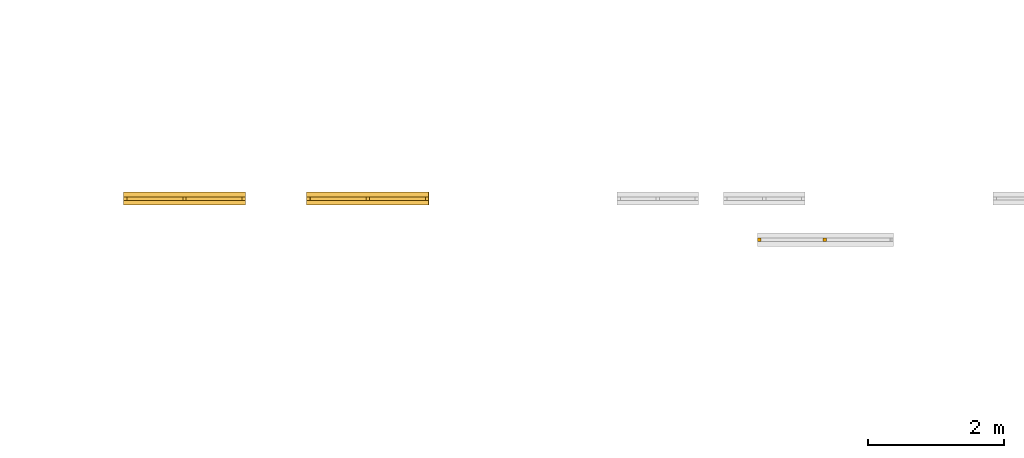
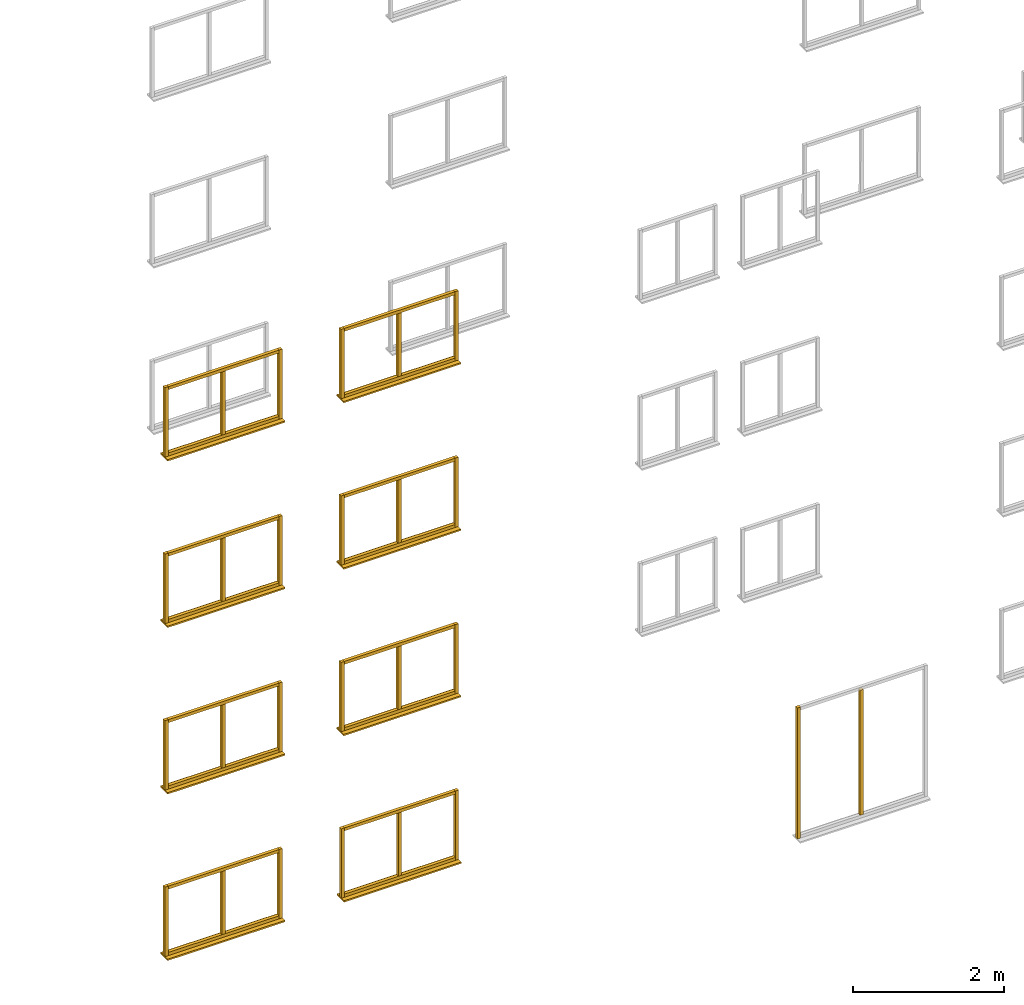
# Not in any storey, part 2 of 22: 50 windows.
"""IFC2X3 model written with IfcOpenShell, lengths in metres."""

from ifc_helpers import new_model, si_unit, frame, origin, place, context, project, faceted_brep, element, save


model = new_model("IFC2X3")

# Units and contexts
model_context = context("Model", 3, precision=1e-06, world=origin())
ifc_project = project(units=[si_unit("LENGTHUNIT", "METRE"), si_unit("PLANEANGLEUNIT", "RADIAN")], contexts=[model_context])

# Windows
placement = place(None, origin())
window_1_placement = place(placement, frame((1.374999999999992, -0.098422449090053, 3.725000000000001), z_axis=(0.0, 0.0, 1.0), x_axis=(1.0, 0.0, 0.0)))
element("IfcWindow", 1, at=window_1_placement, Name="bottomFrame", context=model_context, shape_type="Brep", body=[
    faceted_brep([(0.0, 0.05, 0.0), (1.7, 0.05, 0.0), (1.7, 0.0, 0.0), (0.0, 0.0, 0.0), (1.7, 0.0, 0.05), (1.7, 0.05, 0.05), (0.0, 0.05, 0.05), (0.0, 0.0, 0.05), (0.0, 0.05, 0.0), (0.0, 0.0, 0.0), (0.0, 0.0, 0.05), (0.0, 0.05, 0.05), (1.7, 0.05, 0.0), (0.0, 0.05, 0.0), (0.0, 0.05, 0.05), (1.7, 0.05, 0.05), (1.7, 0.0, 0.0), (1.7, 0.05, 0.0), (1.7, 0.05, 0.05), (1.7, 0.0, 0.05), (0.0, 0.0, 0.0), (1.7, 0.0, 0.0), (1.7, 0.0, 0.05), (0.0, 0.0, 0.05)], [[[0, 1, 2, 3]], [[4, 5, 6, 7]], [[8, 9, 10, 11]], [[12, 13, 14, 15]], [[16, 17, 18, 19]], [[20, 21, 22, 23]]]),
])
for number, where, z_axis, x_axis, name in (
    (2, (3.074999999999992, -0.098422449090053, 3.725000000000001), (0.0, 0.0, 1.0), (1.0, 0.0, 0.0), "rightFrame"),
    (3, (1.324999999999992, -0.098422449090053, 3.725000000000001), (0.0, 0.0, 1.0), (1.0, 0.0, 0.0), "leftFrame"),
    (4, (4.024999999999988, -0.098422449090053, 3.725000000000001), (0.0, 0.0, 1.0), (1.0, 0.0, 0.0), "leftFrame"),
):
    element("IfcWindow", number, at=place(placement, frame(where, z_axis=z_axis, x_axis=x_axis)), Name=name, context=model_context, shape_type="Brep", body=[
        faceted_brep([(0.0, 0.05, 0.0), (0.05, 0.05, 0.0), (0.05, 0.0, 0.0), (0.0, 0.0, 0.0), (0.05, 0.0, 1.125), (0.05, 0.05, 1.125), (0.0, 0.05, 1.125), (0.0, 0.0, 1.125), (0.0, 0.05, 0.0), (0.0, 0.0, 0.0), (0.0, 0.0, 1.125), (0.0, 0.05, 1.125), (0.05, 0.05, 0.0), (0.0, 0.05, 0.0), (0.0, 0.05, 1.125), (0.05, 0.05, 1.125), (0.05, 0.0, 0.0), (0.05, 0.05, 0.0), (0.05, 0.05, 1.125), (0.05, 0.0, 1.125), (0.0, 0.0, 0.0), (0.05, 0.0, 0.0), (0.05, 0.0, 1.125), (0.0, 0.0, 1.125)], [[[0, 1, 2, 3]], [[4, 5, 6, 7]], [[8, 9, 10, 11]], [[12, 13, 14, 15]], [[16, 17, 18, 19]], [[20, 21, 22, 23]]]),
    ])
window_2_placement = place(placement, frame((4.024999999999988, -0.166922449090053, 3.700000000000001), z_axis=(0.0, 0.0, 1.0), x_axis=(1.0, 0.0, 0.0)))
element("IfcWindow", 5, at=window_2_placement, Name="windowSill", context=model_context, shape_type="Brep", body=[
    faceted_brep([(0.0, 0.187, 0.0), (1.8, 0.187, 0.0), (1.8, 0.0, 0.0), (0.0, 0.0, 0.0), (1.8, 0.0, 0.025), (1.8, 0.187, 0.025), (0.0, 0.187, 0.025), (0.0, 0.0, 0.025), (0.0, 0.187, 0.0), (0.0, 0.0, 0.0), (0.0, 0.0, 0.025), (0.0, 0.187, 0.025), (1.8, 0.187, 0.0), (0.0, 0.187, 0.0), (0.0, 0.187, 0.025), (1.8, 0.187, 0.025), (1.8, 0.0, 0.0), (1.8, 0.187, 0.0), (1.8, 0.187, 0.025), (1.8, 0.0, 0.025), (0.0, 0.0, 0.0), (1.8, 0.0, 0.0), (1.8, 0.0, 0.025), (0.0, 0.0, 0.025)], [[[0, 1, 2, 3]], [[4, 5, 6, 7]], [[8, 9, 10, 11]], [[12, 13, 14, 15]], [[16, 17, 18, 19]], [[20, 21, 22, 23]]]),
])
window_3_placement = place(placement, frame((5.774999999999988, -0.098422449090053, 3.725000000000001), z_axis=(0.0, 0.0, 1.0), x_axis=(1.0, 0.0, 0.0)))
element("IfcWindow", 6, at=window_3_placement, Name="rightFrame", context=model_context, shape_type="Brep", body=[
    faceted_brep([(0.0, 0.05, 0.0), (0.05, 0.05, 0.0), (0.05, 0.0, 0.0), (0.0, 0.0, 0.0), (0.05, 0.0, 1.125), (0.05, 0.05, 1.125), (0.0, 0.05, 1.125), (0.0, 0.0, 1.125), (0.0, 0.05, 0.0), (0.0, 0.0, 0.0), (0.0, 0.0, 1.125), (0.0, 0.05, 1.125), (0.05, 0.05, 0.0), (0.0, 0.05, 0.0), (0.0, 0.05, 1.125), (0.05, 0.05, 1.125), (0.05, 0.0, 0.0), (0.05, 0.05, 0.0), (0.05, 0.05, 1.125), (0.05, 0.0, 1.125), (0.0, 0.0, 0.0), (0.05, 0.0, 0.0), (0.05, 0.0, 1.125), (0.0, 0.0, 1.125)], [[[0, 1, 2, 3]], [[4, 5, 6, 7]], [[8, 9, 10, 11]], [[12, 13, 14, 15]], [[16, 17, 18, 19]], [[20, 21, 22, 23]]]),
])
for number, where, z_axis, x_axis, name in (
    (7, (4.074999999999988, -0.098422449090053, 4.800000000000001), (0.0, 0.0, 1.0), (1.0, 0.0, 0.0), "topFrame"),
    (8, (4.074999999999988, -0.098422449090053, 3.725000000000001), (0.0, 0.0, 1.0), (1.0, 0.0, 0.0), "bottomFrame"),
    (9, (4.080000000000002, -0.098422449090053, 1.025), (0.0, 0.0, 1.0), (1.0, 0.0, 0.0), "bottomFrame"),
):
    element("IfcWindow", number, at=place(placement, frame(where, z_axis=z_axis, x_axis=x_axis)), Name=name, context=model_context, shape_type="Brep", body=[
        faceted_brep([(0.0, 0.05, 0.0), (1.7, 0.05, 0.0), (1.7, 0.0, 0.0), (0.0, 0.0, 0.0), (1.7, 0.0, 0.05), (1.7, 0.05, 0.05), (0.0, 0.05, 0.05), (0.0, 0.0, 0.05), (0.0, 0.05, 0.0), (0.0, 0.0, 0.0), (0.0, 0.0, 0.05), (0.0, 0.05, 0.05), (1.7, 0.05, 0.0), (0.0, 0.05, 0.0), (0.0, 0.05, 0.05), (1.7, 0.05, 0.05), (1.7, 0.0, 0.0), (1.7, 0.05, 0.0), (1.7, 0.05, 0.05), (1.7, 0.0, 0.05), (0.0, 0.0, 0.0), (1.7, 0.0, 0.0), (1.7, 0.0, 0.05), (0.0, 0.0, 0.05)], [[[0, 1, 2, 3]], [[4, 5, 6, 7]], [[8, 9, 10, 11]], [[12, 13, 14, 15]], [[16, 17, 18, 19]], [[20, 21, 22, 23]]]),
    ])
window_4_placement = place(placement, frame((4.030000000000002, -0.166922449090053, 1.0), z_axis=(0.0, 0.0, 1.0), x_axis=(1.0, 0.0, 0.0)))
element("IfcWindow", 10, at=window_4_placement, Name="windowSill", context=model_context, shape_type="Brep", body=[
    faceted_brep([(0.0, 0.187, 0.0), (1.8, 0.187, 0.0), (1.8, 0.0, 0.0), (0.0, 0.0, 0.0), (1.8, 0.0, 0.025), (1.8, 0.187, 0.025), (0.0, 0.187, 0.025), (0.0, 0.0, 0.025), (0.0, 0.187, 0.0), (0.0, 0.0, 0.0), (0.0, 0.0, 0.025), (0.0, 0.187, 0.025), (1.8, 0.187, 0.0), (0.0, 0.187, 0.0), (0.0, 0.187, 0.025), (1.8, 0.187, 0.025), (1.8, 0.0, 0.0), (1.8, 0.187, 0.0), (1.8, 0.187, 0.025), (1.8, 0.0, 0.025), (0.0, 0.0, 0.0), (1.8, 0.0, 0.0), (1.8, 0.0, 0.025), (0.0, 0.0, 0.025)], [[[0, 1, 2, 3]], [[4, 5, 6, 7]], [[8, 9, 10, 11]], [[12, 13, 14, 15]], [[16, 17, 18, 19]], [[20, 21, 22, 23]]]),
])
window_5_placement = place(placement, frame((4.080000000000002, -0.098422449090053, 2.100000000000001), z_axis=(0.0, 0.0, 1.0), x_axis=(1.0, 0.0, 0.0)))
element("IfcWindow", 11, at=window_5_placement, Name="topFrame", context=model_context, shape_type="Brep", body=[
    faceted_brep([(0.0, 0.05, 0.0), (1.7, 0.05, 0.0), (1.7, 0.0, 0.0), (0.0, 0.0, 0.0), (1.7, 0.0, 0.05), (1.7, 0.05, 0.05), (0.0, 0.05, 0.05), (0.0, 0.0, 0.05), (0.0, 0.05, 0.0), (0.0, 0.0, 0.0), (0.0, 0.0, 0.05), (0.0, 0.05, 0.05), (1.7, 0.05, 0.0), (0.0, 0.05, 0.0), (0.0, 0.05, 0.05), (1.7, 0.05, 0.05), (1.7, 0.0, 0.0), (1.7, 0.05, 0.0), (1.7, 0.05, 0.05), (1.7, 0.0, 0.05), (0.0, 0.0, 0.0), (1.7, 0.0, 0.0), (1.7, 0.0, 0.05), (0.0, 0.0, 0.05)], [[[0, 1, 2, 3]], [[4, 5, 6, 7]], [[8, 9, 10, 11]], [[12, 13, 14, 15]], [[16, 17, 18, 19]], [[20, 21, 22, 23]]]),
])
for number, where, z_axis, x_axis, name in (
    (12, (4.030000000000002, -0.098422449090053, 1.025), (0.0, 0.0, 1.0), (1.0, 0.0, 0.0), "leftFrame"),
    (13, (5.780000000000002, -0.098422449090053, 1.025), (0.0, 0.0, 1.0), (1.0, 0.0, 0.0), "rightFrame"),
):
    element("IfcWindow", number, at=place(placement, frame(where, z_axis=z_axis, x_axis=x_axis)), Name=name, context=model_context, shape_type="Brep", body=[
        faceted_brep([(0.0, 0.05, 0.0), (0.05, 0.05, 0.0), (0.05, 0.0, 0.0), (0.0, 0.0, 0.0), (0.05, 0.0, 1.125), (0.05, 0.05, 1.125), (0.0, 0.05, 1.125), (0.0, 0.0, 1.125), (0.0, 0.05, 0.0), (0.0, 0.0, 0.0), (0.0, 0.0, 1.125), (0.0, 0.05, 1.125), (0.05, 0.05, 0.0), (0.0, 0.05, 0.0), (0.0, 0.05, 1.125), (0.05, 0.05, 1.125), (0.05, 0.0, 0.0), (0.05, 0.05, 0.0), (0.05, 0.05, 1.125), (0.05, 0.0, 1.125), (0.0, 0.0, 0.0), (0.05, 0.0, 0.0), (0.05, 0.0, 1.125), (0.0, 0.0, 1.125)], [[[0, 1, 2, 3]], [[4, 5, 6, 7]], [[8, 9, 10, 11]], [[12, 13, 14, 15]], [[16, 17, 18, 19]], [[20, 21, 22, 23]]]),
    ])
window_6_placement = place(placement, frame((4.905000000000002, -0.098422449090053, 1.075), z_axis=(0.0, 0.0, 1.0), x_axis=(1.0, 0.0, 0.0)))
element("IfcWindow", 14, at=window_6_placement, Name="verticalBar", context=model_context, shape_type="Brep", body=[
    faceted_brep([(0.0, 0.05, 0.0), (0.05, 0.05, 0.0), (0.05, 0.0, 0.0), (0.0, 0.0, 0.0), (0.05, 0.0, 1.025), (0.05, 0.05, 1.025), (0.0, 0.05, 1.025), (0.0, 0.0, 1.025), (0.0, 0.05, 0.0), (0.0, 0.0, 0.0), (0.0, 0.0, 1.025), (0.0, 0.05, 1.025), (0.05, 0.05, 0.0), (0.0, 0.05, 0.0), (0.0, 0.05, 1.025), (0.05, 0.05, 1.025), (0.05, 0.0, 0.0), (0.05, 0.05, 0.0), (0.05, 0.05, 1.025), (0.05, 0.0, 1.025), (0.0, 0.0, 0.0), (0.05, 0.0, 0.0), (0.05, 0.0, 1.025), (0.0, 0.0, 1.025)], [[[0, 1, 2, 3]], [[4, 5, 6, 7]], [[8, 9, 10, 11]], [[12, 13, 14, 15]], [[16, 17, 18, 19]], [[20, 21, 22, 23]]]),
])
for number, where, z_axis, x_axis, name in (
    (15, (1.375000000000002, -0.098422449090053, 1.025), (0.0, 0.0, 1.0), (1.0, 0.0, 0.0), "bottomFrame"),
    (16, (1.375000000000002, -0.098422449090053, 2.100000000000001), (0.0, 0.0, 1.0), (1.0, 0.0, 0.0), "topFrame"),
):
    element("IfcWindow", number, at=place(placement, frame(where, z_axis=z_axis, x_axis=x_axis)), Name=name, context=model_context, shape_type="Brep", body=[
        faceted_brep([(0.0, 0.05, 0.0), (1.7, 0.05, 0.0), (1.7, 0.0, 0.0), (0.0, 0.0, 0.0), (1.7, 0.0, 0.05), (1.7, 0.05, 0.05), (0.0, 0.05, 0.05), (0.0, 0.0, 0.05), (0.0, 0.05, 0.0), (0.0, 0.0, 0.0), (0.0, 0.0, 0.05), (0.0, 0.05, 0.05), (1.7, 0.05, 0.0), (0.0, 0.05, 0.0), (0.0, 0.05, 0.05), (1.7, 0.05, 0.05), (1.7, 0.0, 0.0), (1.7, 0.05, 0.0), (1.7, 0.05, 0.05), (1.7, 0.0, 0.05), (0.0, 0.0, 0.0), (1.7, 0.0, 0.0), (1.7, 0.0, 0.05), (0.0, 0.0, 0.05)], [[[0, 1, 2, 3]], [[4, 5, 6, 7]], [[8, 9, 10, 11]], [[12, 13, 14, 15]], [[16, 17, 18, 19]], [[20, 21, 22, 23]]]),
    ])
window_7_placement = place(placement, frame((2.200000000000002, -0.098422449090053, 1.075), z_axis=(0.0, 0.0, 1.0), x_axis=(1.0, 0.0, 0.0)))
element("IfcWindow", 17, at=window_7_placement, Name="verticalBar", context=model_context, shape_type="Brep", body=[
    faceted_brep([(0.0, 0.05, 0.0), (0.05, 0.05, 0.0), (0.05, 0.0, 0.0), (0.0, 0.0, 0.0), (0.05, 0.0, 1.025), (0.05, 0.05, 1.025), (0.0, 0.05, 1.025), (0.0, 0.0, 1.025), (0.0, 0.05, 0.0), (0.0, 0.0, 0.0), (0.0, 0.0, 1.025), (0.0, 0.05, 1.025), (0.05, 0.05, 0.0), (0.0, 0.05, 0.0), (0.0, 0.05, 1.025), (0.05, 0.05, 1.025), (0.05, 0.0, 0.0), (0.05, 0.05, 0.0), (0.05, 0.05, 1.025), (0.05, 0.0, 1.025), (0.0, 0.0, 0.0), (0.05, 0.0, 0.0), (0.05, 0.0, 1.025), (0.0, 0.0, 1.025)], [[[0, 1, 2, 3]], [[4, 5, 6, 7]], [[8, 9, 10, 11]], [[12, 13, 14, 15]], [[16, 17, 18, 19]], [[20, 21, 22, 23]]]),
])
for number, where, z_axis, x_axis, name in (
    (18, (1.325000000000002, -0.098422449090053, 1.025), (0.0, 0.0, 1.0), (1.0, 0.0, 0.0), "leftFrame"),
    (19, (3.075000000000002, -0.098422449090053, 1.025), (0.0, 0.0, 1.0), (1.0, 0.0, 0.0), "rightFrame"),
):
    element("IfcWindow", number, at=place(placement, frame(where, z_axis=z_axis, x_axis=x_axis)), Name=name, context=model_context, shape_type="Brep", body=[
        faceted_brep([(0.0, 0.05, 0.0), (0.05, 0.05, 0.0), (0.05, 0.0, 0.0), (0.0, 0.0, 0.0), (0.05, 0.0, 1.125), (0.05, 0.05, 1.125), (0.0, 0.05, 1.125), (0.0, 0.0, 1.125), (0.0, 0.05, 0.0), (0.0, 0.0, 0.0), (0.0, 0.0, 1.125), (0.0, 0.05, 1.125), (0.05, 0.05, 0.0), (0.0, 0.05, 0.0), (0.0, 0.05, 1.125), (0.05, 0.05, 1.125), (0.05, 0.0, 0.0), (0.05, 0.05, 0.0), (0.05, 0.05, 1.125), (0.05, 0.0, 1.125), (0.0, 0.0, 0.0), (0.05, 0.0, 0.0), (0.05, 0.0, 1.125), (0.0, 0.0, 1.125)], [[[0, 1, 2, 3]], [[4, 5, 6, 7]], [[8, 9, 10, 11]], [[12, 13, 14, 15]], [[16, 17, 18, 19]], [[20, 21, 22, 23]]]),
    ])
window_8_placement = place(placement, frame((1.325000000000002, -0.166922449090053, 1.0), z_axis=(0.0, 0.0, 1.0), x_axis=(1.0, 0.0, 0.0)))
element("IfcWindow", 20, at=window_8_placement, Name="windowSill", context=model_context, shape_type="Brep", body=[
    faceted_brep([(0.0, 0.187, 0.0), (1.8, 0.187, 0.0), (1.8, 0.0, 0.0), (0.0, 0.0, 0.0), (1.8, 0.0, 0.025), (1.8, 0.187, 0.025), (0.0, 0.187, 0.025), (0.0, 0.0, 0.025), (0.0, 0.187, 0.0), (0.0, 0.0, 0.0), (0.0, 0.0, 0.025), (0.0, 0.187, 0.025), (1.8, 0.187, 0.0), (0.0, 0.187, 0.0), (0.0, 0.187, 0.025), (1.8, 0.187, 0.025), (1.8, 0.0, 0.0), (1.8, 0.187, 0.0), (1.8, 0.187, 0.025), (1.8, 0.0, 0.025), (0.0, 0.0, 0.0), (1.8, 0.0, 0.0), (1.8, 0.0, 0.025), (0.0, 0.0, 0.025)], [[[0, 1, 2, 3]], [[4, 5, 6, 7]], [[8, 9, 10, 11]], [[12, 13, 14, 15]], [[16, 17, 18, 19]], [[20, 21, 22, 23]]]),
])
window_9_placement = place(placement, frame((11.637499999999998, -0.70492223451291, 0.075), z_axis=(0.0, 0.0, 1.0), x_axis=(1.0, 0.0, 0.0)))
element("IfcWindow", 21, at=window_9_placement, Name="verticalLeftBar", context=model_context, shape_type="Brep", body=[
    faceted_brep([(0.0, 0.05, 0.0), (0.05, 0.05, 0.0), (0.05, 0.0, 0.0), (0.0, 0.0, 0.0), (0.05, 0.0, 2.025), (0.05, 0.05, 2.025), (0.0, 0.05, 2.025), (0.0, 0.0, 2.025), (0.0, 0.05, 0.0), (0.0, 0.0, 0.0), (0.0, 0.0, 2.025), (0.0, 0.05, 2.025), (0.05, 0.05, 0.0), (0.0, 0.05, 0.0), (0.0, 0.05, 2.025), (0.05, 0.05, 2.025), (0.05, 0.0, 0.0), (0.05, 0.05, 0.0), (0.05, 0.05, 2.025), (0.05, 0.0, 2.025), (0.0, 0.0, 0.0), (0.05, 0.0, 0.0), (0.05, 0.0, 2.025), (0.0, 0.0, 2.025)], [[[0, 1, 2, 3]], [[4, 5, 6, 7]], [[8, 9, 10, 11]], [[12, 13, 14, 15]], [[16, 17, 18, 19]], [[20, 21, 22, 23]]]),
])
window_10_placement = place(placement, frame((10.674999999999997, -0.70492223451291, 0.025), z_axis=(0.0, 0.0, 1.0), x_axis=(1.0, 0.0, 0.0)))
element("IfcWindow", 22, at=window_10_placement, Name="leftFrame", context=model_context, shape_type="Brep", body=[
    faceted_brep([(0.0, 0.05, 0.0), (0.05, 0.05, 0.0), (0.05, 0.0, 0.0), (0.0, 0.0, 0.0), (0.05, 0.0, 2.125), (0.05, 0.05, 2.125), (0.0, 0.05, 2.125), (0.0, 0.0, 2.125), (0.0, 0.05, 0.0), (0.0, 0.0, 0.0), (0.0, 0.0, 2.125), (0.0, 0.05, 2.125), (0.05, 0.05, 0.0), (0.0, 0.05, 0.0), (0.0, 0.05, 2.125), (0.05, 0.05, 2.125), (0.05, 0.0, 0.0), (0.05, 0.05, 0.0), (0.05, 0.05, 2.125), (0.05, 0.0, 2.125), (0.0, 0.0, 0.0), (0.05, 0.0, 0.0), (0.05, 0.0, 2.125), (0.0, 0.0, 2.125)], [[[0, 1, 2, 3]], [[4, 5, 6, 7]], [[8, 9, 10, 11]], [[12, 13, 14, 15]], [[16, 17, 18, 19]], [[20, 21, 22, 23]]]),
])
window_11_placement = place(placement, frame((1.324999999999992, -0.166922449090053, 3.700000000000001), z_axis=(0.0, 0.0, 1.0), x_axis=(1.0, 0.0, 0.0)))
element("IfcWindow", 23, at=window_11_placement, Name="windowSill", context=model_context, shape_type="Brep", body=[
    faceted_brep([(0.0, 0.187, 0.0), (1.8, 0.187, 0.0), (1.8, 0.0, 0.0), (0.0, 0.0, 0.0), (1.8, 0.0, 0.025), (1.8, 0.187, 0.025), (0.0, 0.187, 0.025), (0.0, 0.0, 0.025), (0.0, 0.187, 0.0), (0.0, 0.0, 0.0), (0.0, 0.0, 0.025), (0.0, 0.187, 0.025), (1.8, 0.187, 0.0), (0.0, 0.187, 0.0), (0.0, 0.187, 0.025), (1.8, 0.187, 0.025), (1.8, 0.0, 0.0), (1.8, 0.187, 0.0), (1.8, 0.187, 0.025), (1.8, 0.0, 0.025), (0.0, 0.0, 0.0), (1.8, 0.0, 0.0), (1.8, 0.0, 0.025), (0.0, 0.0, 0.025)], [[[0, 1, 2, 3]], [[4, 5, 6, 7]], [[8, 9, 10, 11]], [[12, 13, 14, 15]], [[16, 17, 18, 19]], [[20, 21, 22, 23]]]),
])
window_12_placement = place(placement, frame((1.374999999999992, -0.098422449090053, 4.800000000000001), z_axis=(0.0, 0.0, 1.0), x_axis=(1.0, 0.0, 0.0)))
element("IfcWindow", 24, at=window_12_placement, Name="topFrame", context=model_context, shape_type="Brep", body=[
    faceted_brep([(0.0, 0.05, 0.0), (1.7, 0.05, 0.0), (1.7, 0.0, 0.0), (0.0, 0.0, 0.0), (1.7, 0.0, 0.05), (1.7, 0.05, 0.05), (0.0, 0.05, 0.05), (0.0, 0.0, 0.05), (0.0, 0.05, 0.0), (0.0, 0.0, 0.0), (0.0, 0.0, 0.05), (0.0, 0.05, 0.05), (1.7, 0.05, 0.0), (0.0, 0.05, 0.0), (0.0, 0.05, 0.05), (1.7, 0.05, 0.05), (1.7, 0.0, 0.0), (1.7, 0.05, 0.0), (1.7, 0.05, 0.05), (1.7, 0.0, 0.05), (0.0, 0.0, 0.0), (1.7, 0.0, 0.0), (1.7, 0.0, 0.05), (0.0, 0.0, 0.05)], [[[0, 1, 2, 3]], [[4, 5, 6, 7]], [[8, 9, 10, 11]], [[12, 13, 14, 15]], [[16, 17, 18, 19]], [[20, 21, 22, 23]]]),
])
window_13_placement = place(placement, frame((2.199999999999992, -0.098422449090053, 3.775000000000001), z_axis=(0.0, 0.0, 1.0), x_axis=(1.0, 0.0, 0.0)))
element("IfcWindow", 25, at=window_13_placement, Name="verticalBar", context=model_context, shape_type="Brep", body=[
    faceted_brep([(0.0, 0.05, 0.0), (0.05, 0.05, 0.0), (0.05, 0.0, 0.0), (0.0, 0.0, 0.0), (0.05, 0.0, 1.025), (0.05, 0.05, 1.025), (0.0, 0.05, 1.025), (0.0, 0.0, 1.025), (0.0, 0.05, 0.0), (0.0, 0.0, 0.0), (0.0, 0.0, 1.025), (0.0, 0.05, 1.025), (0.05, 0.05, 0.0), (0.0, 0.05, 0.0), (0.0, 0.05, 1.025), (0.05, 0.05, 1.025), (0.05, 0.0, 0.0), (0.05, 0.05, 0.0), (0.05, 0.05, 1.025), (0.05, 0.0, 1.025), (0.0, 0.0, 0.0), (0.05, 0.0, 0.0), (0.05, 0.0, 1.025), (0.0, 0.0, 1.025)], [[[0, 1, 2, 3]], [[4, 5, 6, 7]], [[8, 9, 10, 11]], [[12, 13, 14, 15]], [[16, 17, 18, 19]], [[20, 21, 22, 23]]]),
])
for number, where, z_axis, x_axis, name in (
    (26, (4.074999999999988, -0.098422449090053, 7.500000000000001), (0.0, 0.0, 1.0), (1.0, 0.0, 0.0), "topFrame"),
    (27, (4.074999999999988, -0.098422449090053, 6.425000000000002), (0.0, 0.0, 1.0), (1.0, 0.0, 0.0), "bottomFrame"),
):
    element("IfcWindow", number, at=place(placement, frame(where, z_axis=z_axis, x_axis=x_axis)), Name=name, context=model_context, shape_type="Brep", body=[
        faceted_brep([(0.0, 0.05, 0.0), (1.7, 0.05, 0.0), (1.7, 0.0, 0.0), (0.0, 0.0, 0.0), (1.7, 0.0, 0.05), (1.7, 0.05, 0.05), (0.0, 0.05, 0.05), (0.0, 0.0, 0.05), (0.0, 0.05, 0.0), (0.0, 0.0, 0.0), (0.0, 0.0, 0.05), (0.0, 0.05, 0.05), (1.7, 0.05, 0.0), (0.0, 0.05, 0.0), (0.0, 0.05, 0.05), (1.7, 0.05, 0.05), (1.7, 0.0, 0.0), (1.7, 0.05, 0.0), (1.7, 0.05, 0.05), (1.7, 0.0, 0.05), (0.0, 0.0, 0.0), (1.7, 0.0, 0.0), (1.7, 0.0, 0.05), (0.0, 0.0, 0.05)], [[[0, 1, 2, 3]], [[4, 5, 6, 7]], [[8, 9, 10, 11]], [[12, 13, 14, 15]], [[16, 17, 18, 19]], [[20, 21, 22, 23]]]),
    ])
window_14_placement = place(placement, frame((4.899999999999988, -0.098422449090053, 6.475000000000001), z_axis=(0.0, 0.0, 1.0), x_axis=(1.0, 0.0, 0.0)))
element("IfcWindow", 28, at=window_14_placement, Name="verticalBar", context=model_context, shape_type="Brep", body=[
    faceted_brep([(0.0, 0.05, 0.0), (0.05, 0.05, 0.0), (0.05, 0.0, 0.0), (0.0, 0.0, 0.0), (0.05, 0.0, 1.025), (0.05, 0.05, 1.025), (0.0, 0.05, 1.025), (0.0, 0.0, 1.025), (0.0, 0.05, 0.0), (0.0, 0.0, 0.0), (0.0, 0.0, 1.025), (0.0, 0.05, 1.025), (0.05, 0.05, 0.0), (0.0, 0.05, 0.0), (0.0, 0.05, 1.025), (0.05, 0.05, 1.025), (0.05, 0.0, 0.0), (0.05, 0.05, 0.0), (0.05, 0.05, 1.025), (0.05, 0.0, 1.025), (0.0, 0.0, 0.0), (0.05, 0.0, 0.0), (0.05, 0.0, 1.025), (0.0, 0.0, 1.025)], [[[0, 1, 2, 3]], [[4, 5, 6, 7]], [[8, 9, 10, 11]], [[12, 13, 14, 15]], [[16, 17, 18, 19]], [[20, 21, 22, 23]]]),
])
window_15_placement = place(placement, frame((5.774999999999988, -0.098422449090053, 6.425000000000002), z_axis=(0.0, 0.0, 1.0), x_axis=(1.0, 0.0, 0.0)))
element("IfcWindow", 29, at=window_15_placement, Name="rightFrame", context=model_context, shape_type="Brep", body=[
    faceted_brep([(0.0, 0.05, 0.0), (0.05, 0.05, 0.0), (0.05, 0.0, 0.0), (0.0, 0.0, 0.0), (0.05, 0.0, 1.125), (0.05, 0.05, 1.125), (0.0, 0.05, 1.125), (0.0, 0.0, 1.125), (0.0, 0.05, 0.0), (0.0, 0.0, 0.0), (0.0, 0.0, 1.125), (0.0, 0.05, 1.125), (0.05, 0.05, 0.0), (0.0, 0.05, 0.0), (0.0, 0.05, 1.125), (0.05, 0.05, 1.125), (0.05, 0.0, 0.0), (0.05, 0.05, 0.0), (0.05, 0.05, 1.125), (0.05, 0.0, 1.125), (0.0, 0.0, 0.0), (0.05, 0.0, 0.0), (0.05, 0.0, 1.125), (0.0, 0.0, 1.125)], [[[0, 1, 2, 3]], [[4, 5, 6, 7]], [[8, 9, 10, 11]], [[12, 13, 14, 15]], [[16, 17, 18, 19]], [[20, 21, 22, 23]]]),
])
window_16_placement = place(placement, frame((4.024999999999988, -0.166922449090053, 6.400000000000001), z_axis=(0.0, 0.0, 1.0), x_axis=(1.0, 0.0, 0.0)))
element("IfcWindow", 30, at=window_16_placement, Name="windowSill", context=model_context, shape_type="Brep", body=[
    faceted_brep([(0.0, 0.187, 0.0), (1.8, 0.187, 0.0), (1.8, 0.0, 0.0), (0.0, 0.0, 0.0), (1.8, 0.0, 0.025), (1.8, 0.187, 0.025), (0.0, 0.187, 0.025), (0.0, 0.0, 0.025), (0.0, 0.187, 0.0), (0.0, 0.0, 0.0), (0.0, 0.0, 0.025), (0.0, 0.187, 0.025), (1.8, 0.187, 0.0), (0.0, 0.187, 0.0), (0.0, 0.187, 0.025), (1.8, 0.187, 0.025), (1.8, 0.0, 0.0), (1.8, 0.187, 0.0), (1.8, 0.187, 0.025), (1.8, 0.0, 0.025), (0.0, 0.0, 0.0), (1.8, 0.0, 0.0), (1.8, 0.0, 0.025), (0.0, 0.0, 0.025)], [[[0, 1, 2, 3]], [[4, 5, 6, 7]], [[8, 9, 10, 11]], [[12, 13, 14, 15]], [[16, 17, 18, 19]], [[20, 21, 22, 23]]]),
])
for number, where, z_axis, x_axis, name in (
    (31, (4.024999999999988, -0.098422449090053, 6.425000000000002), (0.0, 0.0, 1.0), (1.0, 0.0, 0.0), "leftFrame"),
    (32, (1.324999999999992, -0.098422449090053, 6.425000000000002), (0.0, 0.0, 1.0), (1.0, 0.0, 0.0), "leftFrame"),
):
    element("IfcWindow", number, at=place(placement, frame(where, z_axis=z_axis, x_axis=x_axis)), Name=name, context=model_context, shape_type="Brep", body=[
        faceted_brep([(0.0, 0.05, 0.0), (0.05, 0.05, 0.0), (0.05, 0.0, 0.0), (0.0, 0.0, 0.0), (0.05, 0.0, 1.125), (0.05, 0.05, 1.125), (0.0, 0.05, 1.125), (0.0, 0.0, 1.125), (0.0, 0.05, 0.0), (0.0, 0.0, 0.0), (0.0, 0.0, 1.125), (0.0, 0.05, 1.125), (0.05, 0.05, 0.0), (0.0, 0.05, 0.0), (0.0, 0.05, 1.125), (0.05, 0.05, 1.125), (0.05, 0.0, 0.0), (0.05, 0.05, 0.0), (0.05, 0.05, 1.125), (0.05, 0.0, 1.125), (0.0, 0.0, 0.0), (0.05, 0.0, 0.0), (0.05, 0.0, 1.125), (0.0, 0.0, 1.125)], [[[0, 1, 2, 3]], [[4, 5, 6, 7]], [[8, 9, 10, 11]], [[12, 13, 14, 15]], [[16, 17, 18, 19]], [[20, 21, 22, 23]]]),
    ])
window_17_placement = place(placement, frame((1.374999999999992, -0.098422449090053, 6.425000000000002), z_axis=(0.0, 0.0, 1.0), x_axis=(1.0, 0.0, 0.0)))
element("IfcWindow", 33, at=window_17_placement, Name="bottomFrame", context=model_context, shape_type="Brep", body=[
    faceted_brep([(0.0, 0.05, 0.0), (1.7, 0.05, 0.0), (1.7, 0.0, 0.0), (0.0, 0.0, 0.0), (1.7, 0.0, 0.05), (1.7, 0.05, 0.05), (0.0, 0.05, 0.05), (0.0, 0.0, 0.05), (0.0, 0.05, 0.0), (0.0, 0.0, 0.0), (0.0, 0.0, 0.05), (0.0, 0.05, 0.05), (1.7, 0.05, 0.0), (0.0, 0.05, 0.0), (0.0, 0.05, 0.05), (1.7, 0.05, 0.05), (1.7, 0.0, 0.0), (1.7, 0.05, 0.0), (1.7, 0.05, 0.05), (1.7, 0.0, 0.05), (0.0, 0.0, 0.0), (1.7, 0.0, 0.0), (1.7, 0.0, 0.05), (0.0, 0.0, 0.05)], [[[0, 1, 2, 3]], [[4, 5, 6, 7]], [[8, 9, 10, 11]], [[12, 13, 14, 15]], [[16, 17, 18, 19]], [[20, 21, 22, 23]]]),
])
window_18_placement = place(placement, frame((3.074999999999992, -0.098422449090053, 6.425000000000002), z_axis=(0.0, 0.0, 1.0), x_axis=(1.0, 0.0, 0.0)))
element("IfcWindow", 34, at=window_18_placement, Name="rightFrame", context=model_context, shape_type="Brep", body=[
    faceted_brep([(0.0, 0.05, 0.0), (0.05, 0.05, 0.0), (0.05, 0.0, 0.0), (0.0, 0.0, 0.0), (0.05, 0.0, 1.125), (0.05, 0.05, 1.125), (0.0, 0.05, 1.125), (0.0, 0.0, 1.125), (0.0, 0.05, 0.0), (0.0, 0.0, 0.0), (0.0, 0.0, 1.125), (0.0, 0.05, 1.125), (0.05, 0.05, 0.0), (0.0, 0.05, 0.0), (0.0, 0.05, 1.125), (0.05, 0.05, 1.125), (0.05, 0.0, 0.0), (0.05, 0.05, 0.0), (0.05, 0.05, 1.125), (0.05, 0.0, 1.125), (0.0, 0.0, 0.0), (0.05, 0.0, 0.0), (0.05, 0.0, 1.125), (0.0, 0.0, 1.125)], [[[0, 1, 2, 3]], [[4, 5, 6, 7]], [[8, 9, 10, 11]], [[12, 13, 14, 15]], [[16, 17, 18, 19]], [[20, 21, 22, 23]]]),
])
window_19_placement = place(placement, frame((2.199999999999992, -0.098422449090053, 6.475000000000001), z_axis=(0.0, 0.0, 1.0), x_axis=(1.0, 0.0, 0.0)))
element("IfcWindow", 35, at=window_19_placement, Name="verticalBar", context=model_context, shape_type="Brep", body=[
    faceted_brep([(0.0, 0.05, 0.0), (0.05, 0.05, 0.0), (0.05, 0.0, 0.0), (0.0, 0.0, 0.0), (0.05, 0.0, 1.025), (0.05, 0.05, 1.025), (0.0, 0.05, 1.025), (0.0, 0.0, 1.025), (0.0, 0.05, 0.0), (0.0, 0.0, 0.0), (0.0, 0.0, 1.025), (0.0, 0.05, 1.025), (0.05, 0.05, 0.0), (0.0, 0.05, 0.0), (0.0, 0.05, 1.025), (0.05, 0.05, 1.025), (0.05, 0.0, 0.0), (0.05, 0.05, 0.0), (0.05, 0.05, 1.025), (0.05, 0.0, 1.025), (0.0, 0.0, 0.0), (0.05, 0.0, 0.0), (0.05, 0.0, 1.025), (0.0, 0.0, 1.025)], [[[0, 1, 2, 3]], [[4, 5, 6, 7]], [[8, 9, 10, 11]], [[12, 13, 14, 15]], [[16, 17, 18, 19]], [[20, 21, 22, 23]]]),
])
window_20_placement = place(placement, frame((1.374999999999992, -0.098422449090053, 7.500000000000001), z_axis=(0.0, 0.0, 1.0), x_axis=(1.0, 0.0, 0.0)))
element("IfcWindow", 36, at=window_20_placement, Name="topFrame", context=model_context, shape_type="Brep", body=[
    faceted_brep([(0.0, 0.05, 0.0), (1.7, 0.05, 0.0), (1.7, 0.0, 0.0), (0.0, 0.0, 0.0), (1.7, 0.0, 0.05), (1.7, 0.05, 0.05), (0.0, 0.05, 0.05), (0.0, 0.0, 0.05), (0.0, 0.05, 0.0), (0.0, 0.0, 0.0), (0.0, 0.0, 0.05), (0.0, 0.05, 0.05), (1.7, 0.05, 0.0), (0.0, 0.05, 0.0), (0.0, 0.05, 0.05), (1.7, 0.05, 0.05), (1.7, 0.0, 0.0), (1.7, 0.05, 0.0), (1.7, 0.05, 0.05), (1.7, 0.0, 0.05), (0.0, 0.0, 0.0), (1.7, 0.0, 0.0), (1.7, 0.0, 0.05), (0.0, 0.0, 0.05)], [[[0, 1, 2, 3]], [[4, 5, 6, 7]], [[8, 9, 10, 11]], [[12, 13, 14, 15]], [[16, 17, 18, 19]], [[20, 21, 22, 23]]]),
])
for number, where, z_axis, x_axis, name in (
    (37, (1.324999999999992, -0.166922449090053, 6.400000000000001), (0.0, 0.0, 1.0), (1.0, 0.0, 0.0), "windowSill"),
    (38, (4.024999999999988, -0.166922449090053, 9.100000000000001), (0.0, 0.0, 1.0), (1.0, 0.0, 0.0), "windowSill"),
):
    element("IfcWindow", number, at=place(placement, frame(where, z_axis=z_axis, x_axis=x_axis)), Name=name, context=model_context, shape_type="Brep", body=[
        faceted_brep([(0.0, 0.187, 0.0), (1.8, 0.187, 0.0), (1.8, 0.0, 0.0), (0.0, 0.0, 0.0), (1.8, 0.0, 0.025), (1.8, 0.187, 0.025), (0.0, 0.187, 0.025), (0.0, 0.0, 0.025), (0.0, 0.187, 0.0), (0.0, 0.0, 0.0), (0.0, 0.0, 0.025), (0.0, 0.187, 0.025), (1.8, 0.187, 0.0), (0.0, 0.187, 0.0), (0.0, 0.187, 0.025), (1.8, 0.187, 0.025), (1.8, 0.0, 0.0), (1.8, 0.187, 0.0), (1.8, 0.187, 0.025), (1.8, 0.0, 0.025), (0.0, 0.0, 0.0), (1.8, 0.0, 0.0), (1.8, 0.0, 0.025), (0.0, 0.0, 0.025)], [[[0, 1, 2, 3]], [[4, 5, 6, 7]], [[8, 9, 10, 11]], [[12, 13, 14, 15]], [[16, 17, 18, 19]], [[20, 21, 22, 23]]]),
    ])
for number, where, z_axis, x_axis, name in (
    (39, (5.774999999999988, -0.098422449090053, 9.125000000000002), (0.0, 0.0, 1.0), (1.0, 0.0, 0.0), "rightFrame"),
    (40, (4.024999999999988, -0.098422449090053, 9.125000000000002), (0.0, 0.0, 1.0), (1.0, 0.0, 0.0), "leftFrame"),
):
    element("IfcWindow", number, at=place(placement, frame(where, z_axis=z_axis, x_axis=x_axis)), Name=name, context=model_context, shape_type="Brep", body=[
        faceted_brep([(0.0, 0.05, 0.0), (0.05, 0.05, 0.0), (0.05, 0.0, 0.0), (0.0, 0.0, 0.0), (0.05, 0.0, 1.125), (0.05, 0.05, 1.125), (0.0, 0.05, 1.125), (0.0, 0.0, 1.125), (0.0, 0.05, 0.0), (0.0, 0.0, 0.0), (0.0, 0.0, 1.125), (0.0, 0.05, 1.125), (0.05, 0.05, 0.0), (0.0, 0.05, 0.0), (0.0, 0.05, 1.125), (0.05, 0.05, 1.125), (0.05, 0.0, 0.0), (0.05, 0.05, 0.0), (0.05, 0.05, 1.125), (0.05, 0.0, 1.125), (0.0, 0.0, 0.0), (0.05, 0.0, 0.0), (0.05, 0.0, 1.125), (0.0, 0.0, 1.125)], [[[0, 1, 2, 3]], [[4, 5, 6, 7]], [[8, 9, 10, 11]], [[12, 13, 14, 15]], [[16, 17, 18, 19]], [[20, 21, 22, 23]]]),
    ])
window_21_placement = place(placement, frame((4.899999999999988, -0.098422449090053, 9.175), z_axis=(0.0, 0.0, 1.0), x_axis=(1.0, 0.0, 0.0)))
element("IfcWindow", 41, at=window_21_placement, Name="verticalBar", context=model_context, shape_type="Brep", body=[
    faceted_brep([(0.0, 0.05, 0.0), (0.05, 0.05, 0.0), (0.05, 0.0, 0.0), (0.0, 0.0, 0.0), (0.05, 0.0, 1.025), (0.05, 0.05, 1.025), (0.0, 0.05, 1.025), (0.0, 0.0, 1.025), (0.0, 0.05, 0.0), (0.0, 0.0, 0.0), (0.0, 0.0, 1.025), (0.0, 0.05, 1.025), (0.05, 0.05, 0.0), (0.0, 0.05, 0.0), (0.0, 0.05, 1.025), (0.05, 0.05, 1.025), (0.05, 0.0, 0.0), (0.05, 0.05, 0.0), (0.05, 0.05, 1.025), (0.05, 0.0, 1.025), (0.0, 0.0, 0.0), (0.05, 0.0, 0.0), (0.05, 0.0, 1.025), (0.0, 0.0, 1.025)], [[[0, 1, 2, 3]], [[4, 5, 6, 7]], [[8, 9, 10, 11]], [[12, 13, 14, 15]], [[16, 17, 18, 19]], [[20, 21, 22, 23]]]),
])
for number, where, z_axis, x_axis, name in (
    (42, (4.074999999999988, -0.098422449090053, 9.125000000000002), (0.0, 0.0, 1.0), (1.0, 0.0, 0.0), "bottomFrame"),
    (43, (4.074999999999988, -0.098422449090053, 10.200000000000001), (0.0, 0.0, 1.0), (1.0, 0.0, 0.0), "topFrame"),
):
    element("IfcWindow", number, at=place(placement, frame(where, z_axis=z_axis, x_axis=x_axis)), Name=name, context=model_context, shape_type="Brep", body=[
        faceted_brep([(0.0, 0.05, 0.0), (1.7, 0.05, 0.0), (1.7, 0.0, 0.0), (0.0, 0.0, 0.0), (1.7, 0.0, 0.05), (1.7, 0.05, 0.05), (0.0, 0.05, 0.05), (0.0, 0.0, 0.05), (0.0, 0.05, 0.0), (0.0, 0.0, 0.0), (0.0, 0.0, 0.05), (0.0, 0.05, 0.05), (1.7, 0.05, 0.0), (0.0, 0.05, 0.0), (0.0, 0.05, 0.05), (1.7, 0.05, 0.05), (1.7, 0.0, 0.0), (1.7, 0.05, 0.0), (1.7, 0.05, 0.05), (1.7, 0.0, 0.05), (0.0, 0.0, 0.0), (1.7, 0.0, 0.0), (1.7, 0.0, 0.05), (0.0, 0.0, 0.05)], [[[0, 1, 2, 3]], [[4, 5, 6, 7]], [[8, 9, 10, 11]], [[12, 13, 14, 15]], [[16, 17, 18, 19]], [[20, 21, 22, 23]]]),
    ])
window_22_placement = place(placement, frame((1.324999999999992, -0.166922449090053, 9.100000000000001), z_axis=(0.0, 0.0, 1.0), x_axis=(1.0, 0.0, 0.0)))
element("IfcWindow", 44, at=window_22_placement, Name="windowSill", context=model_context, shape_type="Brep", body=[
    faceted_brep([(0.0, 0.187, 0.0), (1.8, 0.187, 0.0), (1.8, 0.0, 0.0), (0.0, 0.0, 0.0), (1.8, 0.0, 0.025), (1.8, 0.187, 0.025), (0.0, 0.187, 0.025), (0.0, 0.0, 0.025), (0.0, 0.187, 0.0), (0.0, 0.0, 0.0), (0.0, 0.0, 0.025), (0.0, 0.187, 0.025), (1.8, 0.187, 0.0), (0.0, 0.187, 0.0), (0.0, 0.187, 0.025), (1.8, 0.187, 0.025), (1.8, 0.0, 0.0), (1.8, 0.187, 0.0), (1.8, 0.187, 0.025), (1.8, 0.0, 0.025), (0.0, 0.0, 0.0), (1.8, 0.0, 0.0), (1.8, 0.0, 0.025), (0.0, 0.0, 0.025)], [[[0, 1, 2, 3]], [[4, 5, 6, 7]], [[8, 9, 10, 11]], [[12, 13, 14, 15]], [[16, 17, 18, 19]], [[20, 21, 22, 23]]]),
])
window_23_placement = place(placement, frame((1.374999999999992, -0.098422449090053, 10.200000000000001), z_axis=(0.0, 0.0, 1.0), x_axis=(1.0, 0.0, 0.0)))
element("IfcWindow", 45, at=window_23_placement, Name="topFrame", context=model_context, shape_type="Brep", body=[
    faceted_brep([(0.0, 0.05, 0.0), (1.7, 0.05, 0.0), (1.7, 0.0, 0.0), (0.0, 0.0, 0.0), (1.7, 0.0, 0.05), (1.7, 0.05, 0.05), (0.0, 0.05, 0.05), (0.0, 0.0, 0.05), (0.0, 0.05, 0.0), (0.0, 0.0, 0.0), (0.0, 0.0, 0.05), (0.0, 0.05, 0.05), (1.7, 0.05, 0.0), (0.0, 0.05, 0.0), (0.0, 0.05, 0.05), (1.7, 0.05, 0.05), (1.7, 0.0, 0.0), (1.7, 0.05, 0.0), (1.7, 0.05, 0.05), (1.7, 0.0, 0.05), (0.0, 0.0, 0.0), (1.7, 0.0, 0.0), (1.7, 0.0, 0.05), (0.0, 0.0, 0.05)], [[[0, 1, 2, 3]], [[4, 5, 6, 7]], [[8, 9, 10, 11]], [[12, 13, 14, 15]], [[16, 17, 18, 19]], [[20, 21, 22, 23]]]),
])
window_24_placement = place(placement, frame((3.074999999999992, -0.098422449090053, 9.125000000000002), z_axis=(0.0, 0.0, 1.0), x_axis=(1.0, 0.0, 0.0)))
element("IfcWindow", 46, at=window_24_placement, Name="rightFrame", context=model_context, shape_type="Brep", body=[
    faceted_brep([(0.0, 0.05, 0.0), (0.05, 0.05, 0.0), (0.05, 0.0, 0.0), (0.0, 0.0, 0.0), (0.05, 0.0, 1.125), (0.05, 0.05, 1.125), (0.0, 0.05, 1.125), (0.0, 0.0, 1.125), (0.0, 0.05, 0.0), (0.0, 0.0, 0.0), (0.0, 0.0, 1.125), (0.0, 0.05, 1.125), (0.05, 0.05, 0.0), (0.0, 0.05, 0.0), (0.0, 0.05, 1.125), (0.05, 0.05, 1.125), (0.05, 0.0, 0.0), (0.05, 0.05, 0.0), (0.05, 0.05, 1.125), (0.05, 0.0, 1.125), (0.0, 0.0, 0.0), (0.05, 0.0, 0.0), (0.05, 0.0, 1.125), (0.0, 0.0, 1.125)], [[[0, 1, 2, 3]], [[4, 5, 6, 7]], [[8, 9, 10, 11]], [[12, 13, 14, 15]], [[16, 17, 18, 19]], [[20, 21, 22, 23]]]),
])
window_25_placement = place(placement, frame((1.374999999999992, -0.098422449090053, 9.125000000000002), z_axis=(0.0, 0.0, 1.0), x_axis=(1.0, 0.0, 0.0)))
element("IfcWindow", 47, at=window_25_placement, Name="bottomFrame", context=model_context, shape_type="Brep", body=[
    faceted_brep([(0.0, 0.05, 0.0), (1.7, 0.05, 0.0), (1.7, 0.0, 0.0), (0.0, 0.0, 0.0), (1.7, 0.0, 0.05), (1.7, 0.05, 0.05), (0.0, 0.05, 0.05), (0.0, 0.0, 0.05), (0.0, 0.05, 0.0), (0.0, 0.0, 0.0), (0.0, 0.0, 0.05), (0.0, 0.05, 0.05), (1.7, 0.05, 0.0), (0.0, 0.05, 0.0), (0.0, 0.05, 0.05), (1.7, 0.05, 0.05), (1.7, 0.0, 0.0), (1.7, 0.05, 0.0), (1.7, 0.05, 0.05), (1.7, 0.0, 0.05), (0.0, 0.0, 0.0), (1.7, 0.0, 0.0), (1.7, 0.0, 0.05), (0.0, 0.0, 0.05)], [[[0, 1, 2, 3]], [[4, 5, 6, 7]], [[8, 9, 10, 11]], [[12, 13, 14, 15]], [[16, 17, 18, 19]], [[20, 21, 22, 23]]]),
])
window_26_placement = place(placement, frame((2.199999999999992, -0.098422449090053, 9.175), z_axis=(0.0, 0.0, 1.0), x_axis=(1.0, 0.0, 0.0)))
element("IfcWindow", 48, at=window_26_placement, Name="verticalBar", context=model_context, shape_type="Brep", body=[
    faceted_brep([(0.0, 0.05, 0.0), (0.05, 0.05, 0.0), (0.05, 0.0, 0.0), (0.0, 0.0, 0.0), (0.05, 0.0, 1.025), (0.05, 0.05, 1.025), (0.0, 0.05, 1.025), (0.0, 0.0, 1.025), (0.0, 0.05, 0.0), (0.0, 0.0, 0.0), (0.0, 0.0, 1.025), (0.0, 0.05, 1.025), (0.05, 0.05, 0.0), (0.0, 0.05, 0.0), (0.0, 0.05, 1.025), (0.05, 0.05, 1.025), (0.05, 0.0, 0.0), (0.05, 0.05, 0.0), (0.05, 0.05, 1.025), (0.05, 0.0, 1.025), (0.0, 0.0, 0.0), (0.05, 0.0, 0.0), (0.05, 0.0, 1.025), (0.0, 0.0, 1.025)], [[[0, 1, 2, 3]], [[4, 5, 6, 7]], [[8, 9, 10, 11]], [[12, 13, 14, 15]], [[16, 17, 18, 19]], [[20, 21, 22, 23]]]),
])
window_27_placement = place(placement, frame((1.324999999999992, -0.098422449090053, 9.125000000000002), z_axis=(0.0, 0.0, 1.0), x_axis=(1.0, 0.0, 0.0)))
element("IfcWindow", 49, at=window_27_placement, Name="leftFrame", context=model_context, shape_type="Brep", body=[
    faceted_brep([(0.0, 0.05, 0.0), (0.05, 0.05, 0.0), (0.05, 0.0, 0.0), (0.0, 0.0, 0.0), (0.05, 0.0, 1.125), (0.05, 0.05, 1.125), (0.0, 0.05, 1.125), (0.0, 0.0, 1.125), (0.0, 0.05, 0.0), (0.0, 0.0, 0.0), (0.0, 0.0, 1.125), (0.0, 0.05, 1.125), (0.05, 0.05, 0.0), (0.0, 0.05, 0.0), (0.0, 0.05, 1.125), (0.05, 0.05, 1.125), (0.05, 0.0, 0.0), (0.05, 0.05, 0.0), (0.05, 0.05, 1.125), (0.05, 0.0, 1.125), (0.0, 0.0, 0.0), (0.05, 0.0, 0.0), (0.05, 0.0, 1.125), (0.0, 0.0, 1.125)], [[[0, 1, 2, 3]], [[4, 5, 6, 7]], [[8, 9, 10, 11]], [[12, 13, 14, 15]], [[16, 17, 18, 19]], [[20, 21, 22, 23]]]),
])
window_28_placement = place(placement, frame((4.899999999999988, -0.098422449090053, 3.775000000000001), z_axis=(0.0, 0.0, 1.0), x_axis=(1.0, 0.0, 0.0)))
element("IfcWindow", 50, at=window_28_placement, Name="verticalBar", context=model_context, shape_type="Brep", body=[
    faceted_brep([(0.0, 0.05, 0.0), (0.05, 0.05, 0.0), (0.05, 0.0, 0.0), (0.0, 0.0, 0.0), (0.05, 0.0, 1.025), (0.05, 0.05, 1.025), (0.0, 0.05, 1.025), (0.0, 0.0, 1.025), (0.0, 0.05, 0.0), (0.0, 0.0, 0.0), (0.0, 0.0, 1.025), (0.0, 0.05, 1.025), (0.05, 0.05, 0.0), (0.0, 0.05, 0.0), (0.0, 0.05, 1.025), (0.05, 0.05, 1.025), (0.05, 0.0, 0.0), (0.05, 0.05, 0.0), (0.05, 0.05, 1.025), (0.05, 0.0, 1.025), (0.0, 0.0, 0.0), (0.05, 0.0, 0.0), (0.05, 0.0, 1.025), (0.0, 0.0, 1.025)], [[[0, 1, 2, 3]], [[4, 5, 6, 7]], [[8, 9, 10, 11]], [[12, 13, 14, 15]], [[16, 17, 18, 19]], [[20, 21, 22, 23]]]),
])

save(model, "model.ifc")
